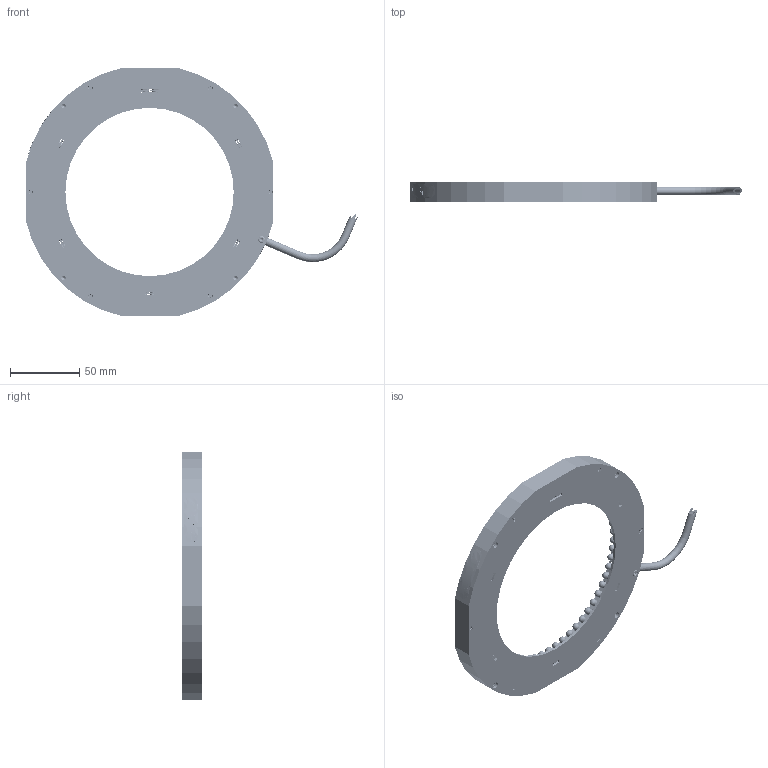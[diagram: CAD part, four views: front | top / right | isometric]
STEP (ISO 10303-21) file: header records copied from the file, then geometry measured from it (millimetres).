
FILE_DESCRIPTION (( 'STEP AP214' ), '1' );
FILE_NAME ('DF242_Default.stp', '2021-07-16T18:07:39', ( '' ), ( '' ), 'SwSTEP 2.0', 'SolidWorks 2018', '' );
FILE_SCHEMA (( 'AUTOMOTIVE_DESIGN' ));
Length unit declared in the file: inch
Products named in the file (12): 097103; BH-440X1_4_91239A704; WHIM1; 097108; 091052 RL1660; 097107; 097331; 097364_Default<As Machined>; 092408_TRUNCATED; DF242_Default; 095600_095600; FH-256X5_16
Assembly tree (75 placements, depth 3):
  DF242_Default
    097331
      097103
      097108
    WHIM1  x60
    097107
    095600_095600
    097364_Default<As Machined>
    FH-256X5_16  x6
    BH-440X1_4_91239A704
    091052 RL1660
    092408_TRUNCATED
Bounding box: 239.53 x 14.23 x 178.31 mm (x, y, z)
Volume: 98290.6 mm3; surface area: 87025 mm2
Topology: 81 solids, 81 shells, 13595 faces, 36875 edges, 24423 vertices
Faces by surface type: plane 8212, bspline 4362, cylinder 682, cone 213, sphere 122, torus 4
Entity records: 72675 total; most frequent: CARTESIAN_POINT 40709, ORIENTED_EDGE 6172, DIRECTION 4411, EDGE_CURVE 3086, VERTEX_POINT 1995, AXIS2_PLACEMENT_3D 1526, EDGE_LOOP 1409, VECTOR 1359
